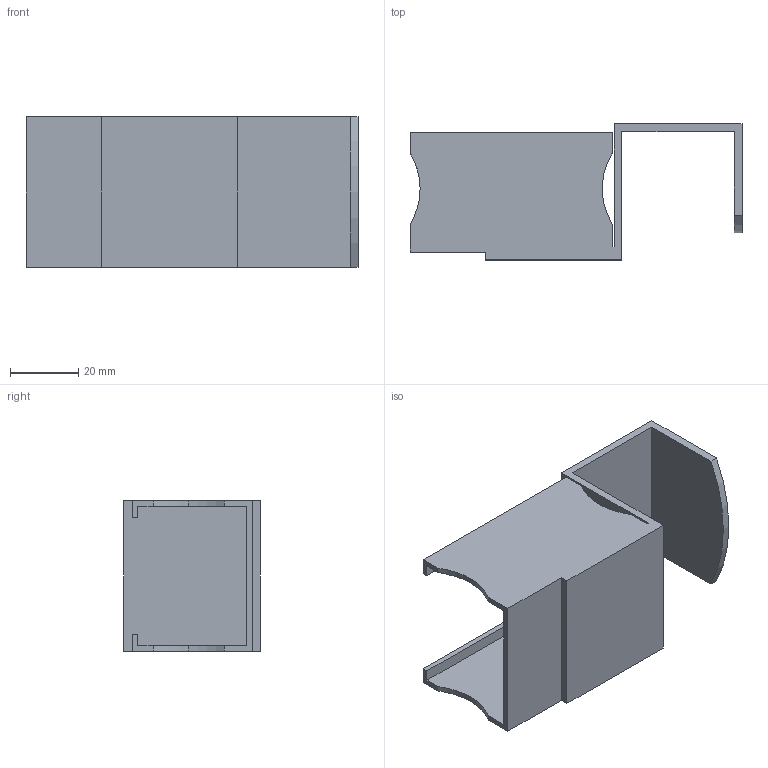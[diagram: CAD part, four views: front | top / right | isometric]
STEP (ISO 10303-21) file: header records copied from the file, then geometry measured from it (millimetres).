
FILE_DESCRIPTION (( 'STEP AP214' ), '1' );
FILE_NAME ('JB-501MJ.step', '2024-01-17T00:59:11', ( 'catia' ), ( 'HP Inc.' ), 'SwSTEP 2.0', 'SolidWorks 2021', '' );
FILE_SCHEMA (( 'AUTOMOTIVE_DESIGN' ));
Length unit declared in the file: millimetre
Products named in the file (1): JB-501MJ
Bounding box: 97.6 x 40 x 44.2 mm (x, y, z)
Volume: 25353.1 mm3; surface area: 24180.3 mm2
Topology: 1 solids, 1 shells, 34 faces, 96 edges, 64 vertices
Faces by surface type: plane 27, cylinder 7
Entity records: 1128 total; most frequent: CARTESIAN_POINT 195, ORIENTED_EDGE 192, DIRECTION 180, EDGE_CURVE 96, LINE 82, VECTOR 82, VERTEX_POINT 64, AXIS2_PLACEMENT_3D 49
